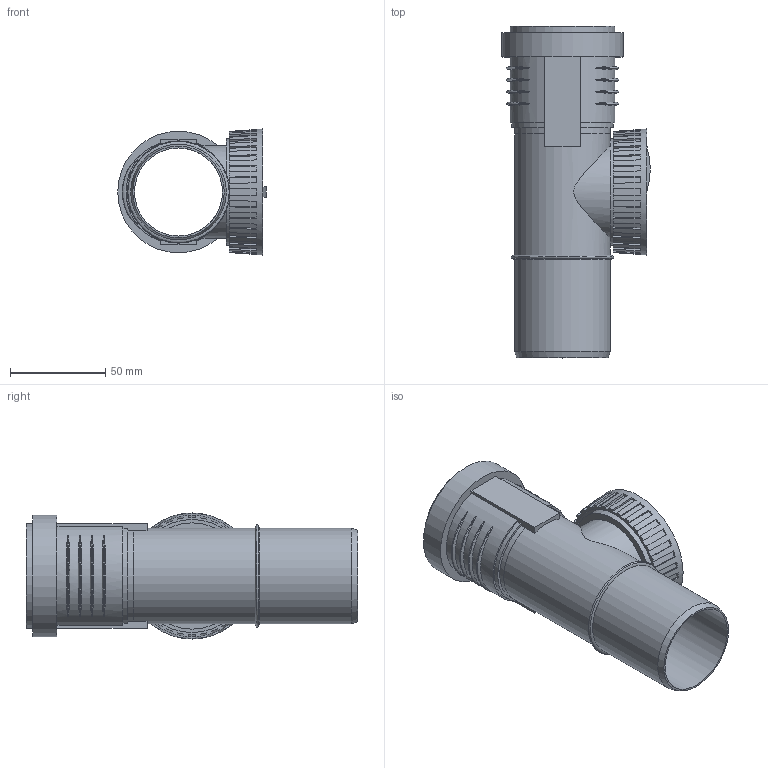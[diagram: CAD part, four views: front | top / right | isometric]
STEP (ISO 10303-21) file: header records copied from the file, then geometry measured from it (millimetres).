
FILE_DESCRIPTION(/* description */ (''),/* implementation_level */ '2;1');
FILE_NAME(/* name */ 'Z:\Geberit\Export\NewStep\390227.stp',/* time_stamp */ '2014-04-02T08:10:18+02:00',/* author */ ('ML'),/* organization */ (''),/* preprocessor_version */ 'ST-DEVELOPER v15.2',/* originating_system */ 'Autodesk Inventor 2014',/* authorisation */ '');
FILE_SCHEMA (('AUTOMOTIVE_DESIGN { 1 0 10303 214 3 1 1 }'));
Length unit declared in the file: millimetre
Products named in the file (4): 861479; 861401; 861483; 390227
Bounding box: 77.86 x 174 x 66.1 mm (x, y, z)
Volume: 92166.5 mm3; surface area: 85997.3 mm2
Topology: 3 solids, 3 shells, 217 faces, 587 edges, 393 vertices
Faces by surface type: plane 158, torus 27, cylinder 22, cone 10
Full cylindrical faces by diameter (mm): 45.7 x1, 46.15 x2, 50.15 x3, 51 x2, 55 x1, 55.77 x1, 59.7 x1, 63.7 x1
Entity records: 7637 total; most frequent: CARTESIAN_POINT 2139, ORIENTED_EDGE 1130, DIRECTION 1022, EDGE_CURVE 563, VERTEX_POINT 390, AXIS2_PLACEMENT_3D 361, LINE 300, VECTOR 300
